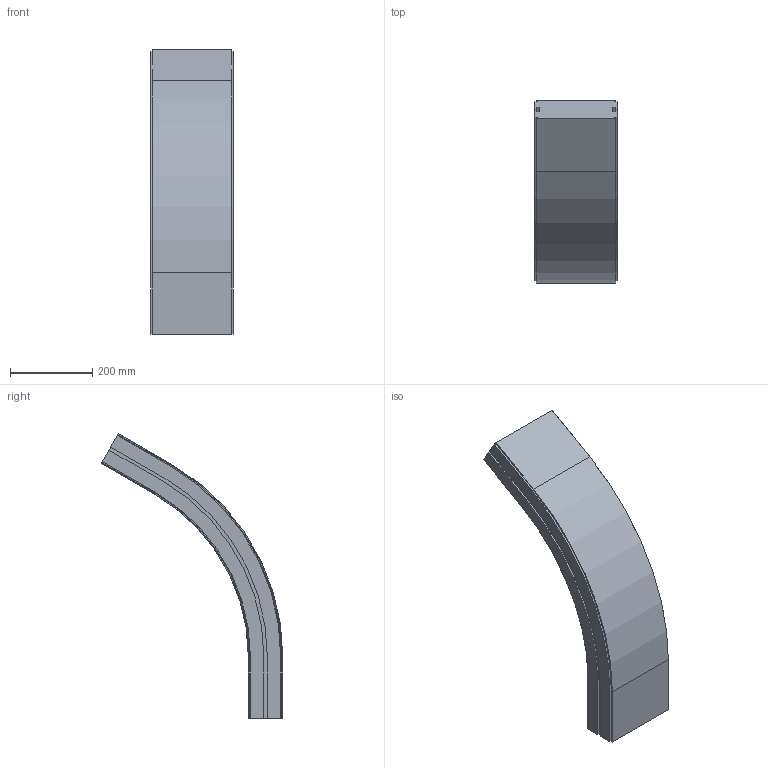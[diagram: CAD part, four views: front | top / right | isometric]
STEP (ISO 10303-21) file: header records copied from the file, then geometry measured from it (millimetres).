
FILE_DESCRIPTION (( 'STEP AP214' ), '1' );
FILE_NAME ('CS SL Verticaalbocht.200 60°.STEP', '2017-02-08T07:37:42', ( '' ), ( '' ), 'SwSTEP 2.0', 'SolidWorks 2016', '' );
FILE_SCHEMA (( 'AUTOMOTIVE_DESIGN' ));
Length unit declared in the file: millimetre
Products named in the file (1): CS SL Verticaalbocht.200 60°
Bounding box: 200 x 442.9 x 694.39 mm (x, y, z)
Volume: 13477889.2 mm3; surface area: 587801.7 mm2
Topology: 1 solids, 1 shells, 98 faces, 272 edges, 176 vertices
Faces by surface type: plane 72, cylinder 18, cone 8
Entity records: 3126 total; most frequent: CARTESIAN_POINT 547, ORIENTED_EDGE 544, DIRECTION 514, EDGE_CURVE 272, VECTOR 228, LINE 228, VERTEX_POINT 176, AXIS2_PLACEMENT_3D 143
